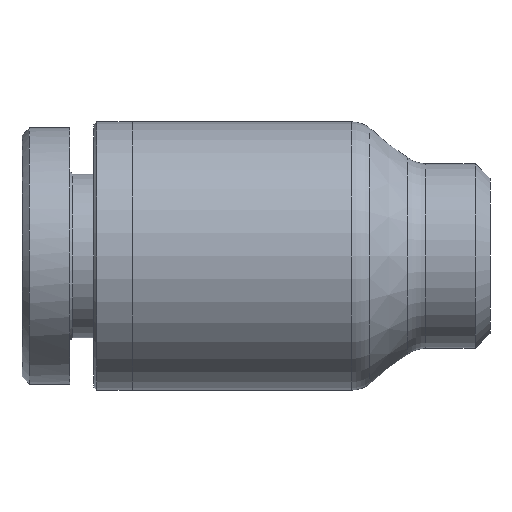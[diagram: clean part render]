
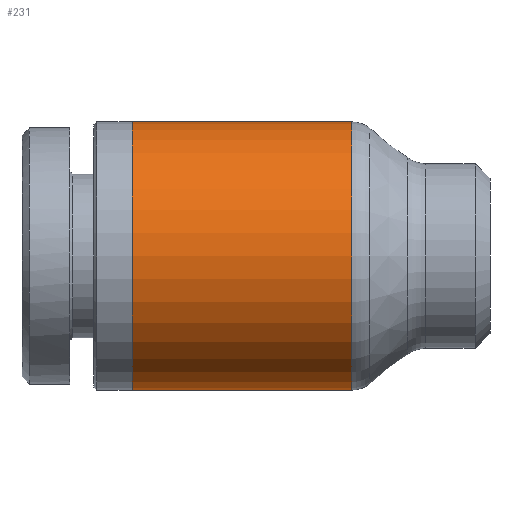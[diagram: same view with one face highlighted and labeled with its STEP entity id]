
A CAD part, front view. The second image highlights one B-rep face of the part: STEP entity #231.
In plain terms, the highlighted cylindrical face has radius 4.5 mm (diameter 9 mm), a full revolution.
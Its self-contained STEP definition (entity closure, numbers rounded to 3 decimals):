
#169=CARTESIAN_POINT('',(-4.643,4.5,0.0));
#170=VERTEX_POINT('',#169);
#171=CARTESIAN_POINT('',(-4.643,0.0,0.0));
#172=DIRECTION('',(1.0,0.0,0.0));
#173=DIRECTION('',(0.0,-1.0,0.0));
#174=AXIS2_PLACEMENT_3D('',#171,#172,#173);
#175=CIRCLE('',#174,4.5);
#176=EDGE_CURVE('',#170,#170,#175,.T.);
#212=CARTESIAN_POINT('',(-8.15,0.0,0.0));
#213=DIRECTION('',(1.0,0.0,0.0));
#214=DIRECTION('',(0.0,1.0,0.0));
#215=AXIS2_PLACEMENT_3D('',#212,#213,#214);
#216=CYLINDRICAL_SURFACE('',#215,4.5);
#217=CARTESIAN_POINT('',(-12.,4.5,0.0));
#218=VERTEX_POINT('',#217);
#219=CARTESIAN_POINT('',(-12.,0.0,0.0));
#220=DIRECTION('',(1.0,0.0,0.0));
#221=DIRECTION('',(0.0,1.0,0.0));
#222=AXIS2_PLACEMENT_3D('',#219,#220,#221);
#223=CIRCLE('',#222,4.5);
#224=EDGE_CURVE('',#218,#218,#223,.T.);
#225=ORIENTED_EDGE('',*,*,#224,.T.);
#226=EDGE_LOOP('',(#225));
#227=FACE_OUTER_BOUND('',#226,.T.);
#228=ORIENTED_EDGE('',*,*,#176,.F.);
#229=EDGE_LOOP('',(#228));
#230=FACE_BOUND('',#229,.T.);
#231=ADVANCED_FACE('',(#227,#230),#216,.T.);
